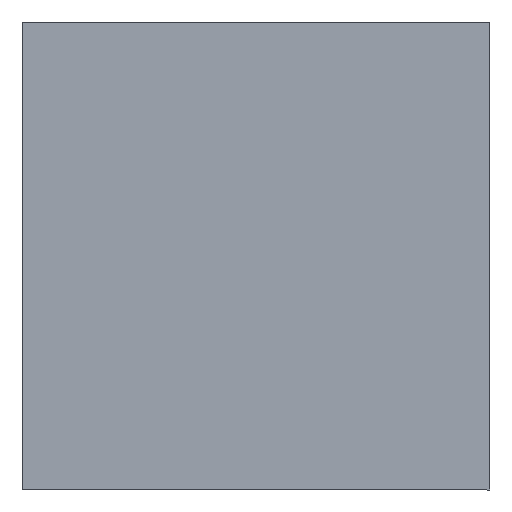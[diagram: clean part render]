
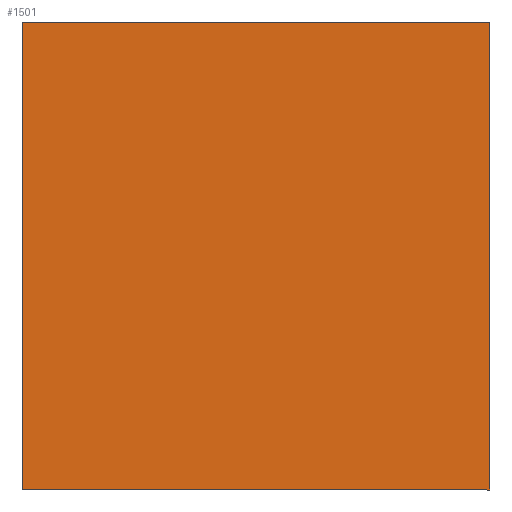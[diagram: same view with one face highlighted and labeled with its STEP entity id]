
A CAD part, left-side view. The second image highlights one B-rep face of the part: STEP entity #1501.
In plain terms, the highlighted planar face has unit normal (-1, 0, 0).
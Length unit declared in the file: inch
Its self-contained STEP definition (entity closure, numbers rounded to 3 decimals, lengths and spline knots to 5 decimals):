
#1 = VERTEX_POINT ( 'NONE', #2663 ) ;
#160 = CARTESIAN_POINT ( 'NONE',  ( -0.78748, -0.72252, -1.2 ) ) ;
#618 = CARTESIAN_POINT ( 'NONE',  ( -0.78748, -0.78748, 0.375 ) ) ;
#707 = VECTOR ( 'NONE', #2523, 39.37008 ) ;
#922 = EDGE_CURVE ( 'NONE', #4371, #1, #4002, .T. ) ;
#1440 = DIRECTION ( 'NONE',  ( 0., 0., -1. ) ) ;
#1501 = ADVANCED_FACE ( 'NONE', ( #2011 ), #3175, .T. ) ;
#1606 = CARTESIAN_POINT ( 'NONE',  ( -0.78748, -0.22252, -0.0625 ) ) ;
#1658 = VECTOR ( 'NONE', #3372, 39.37008 ) ;
#1941 = CARTESIAN_POINT ( 'NONE',  ( -0.78748, 0.78748, 2.066 ) ) ;
#2011 = FACE_OUTER_BOUND ( 'NONE', #6462, .T. ) ;
#2354 = VECTOR ( 'NONE', #1440, 39.37008 ) ;
#2367 = LINE ( 'NONE', #5499, #2354 ) ;
#2415 = LINE ( 'NONE', #1941, #4628 ) ;
#2523 = DIRECTION ( 'NONE',  ( 0., 1., 0. ) ) ;
#2663 = CARTESIAN_POINT ( 'NONE',  ( -0.78748, 0.78748, 0.375 ) ) ;
#3056 = VERTEX_POINT ( 'NONE', #3999 ) ;
#3175 = PLANE ( 'NONE',  #3878 ) ;
#3372 = DIRECTION ( 'NONE',  ( 0., 1., 0. ) ) ;
#3424 = EDGE_CURVE ( 'NONE', #1, #3056, #2415, .T. ) ;
#3588 = DIRECTION ( 'NONE',  ( -1., 0., 0. ) ) ;
#3878 = AXIS2_PLACEMENT_3D ( 'NONE', #1606, #3588, #4598 ) ;
#3999 = CARTESIAN_POINT ( 'NONE',  ( -0.78748, 0.78748, -1.2 ) ) ;
#4002 = LINE ( 'NONE', #4566, #707 ) ;
#4090 = ORIENTED_EDGE ( 'NONE', *, *, #6105, .F. ) ;
#4371 = VERTEX_POINT ( 'NONE', #618 ) ;
#4492 = DIRECTION ( 'NONE',  ( 0., 0., -1. ) ) ;
#4566 = CARTESIAN_POINT ( 'NONE',  ( -0.78748, -0.72252, 0.375 ) ) ;
#4598 = DIRECTION ( 'NONE',  ( 0., 0., 1. ) ) ;
#4628 = VECTOR ( 'NONE', #4492, 39.37008 ) ;
#4875 = CARTESIAN_POINT ( 'NONE',  ( -0.78748, -0.78748, -1.2 ) ) ;
#5076 = EDGE_CURVE ( 'NONE', #4371, #5256, #2367, .T. ) ;
#5256 = VERTEX_POINT ( 'NONE', #4875 ) ;
#5479 = ORIENTED_EDGE ( 'NONE', *, *, #922, .T. ) ;
#5499 = CARTESIAN_POINT ( 'NONE',  ( -0.78748, -0.78748, 0.375 ) ) ;
#5848 = LINE ( 'NONE', #160, #1658 ) ;
#5934 = ORIENTED_EDGE ( 'NONE', *, *, #3424, .T. ) ;
#6105 = EDGE_CURVE ( 'NONE', #5256, #3056, #5848, .T. ) ;
#6159 = ORIENTED_EDGE ( 'NONE', *, *, #5076, .F. ) ;
#6462 = EDGE_LOOP ( 'NONE', ( #5934, #4090, #6159, #5479 ) ) ;
